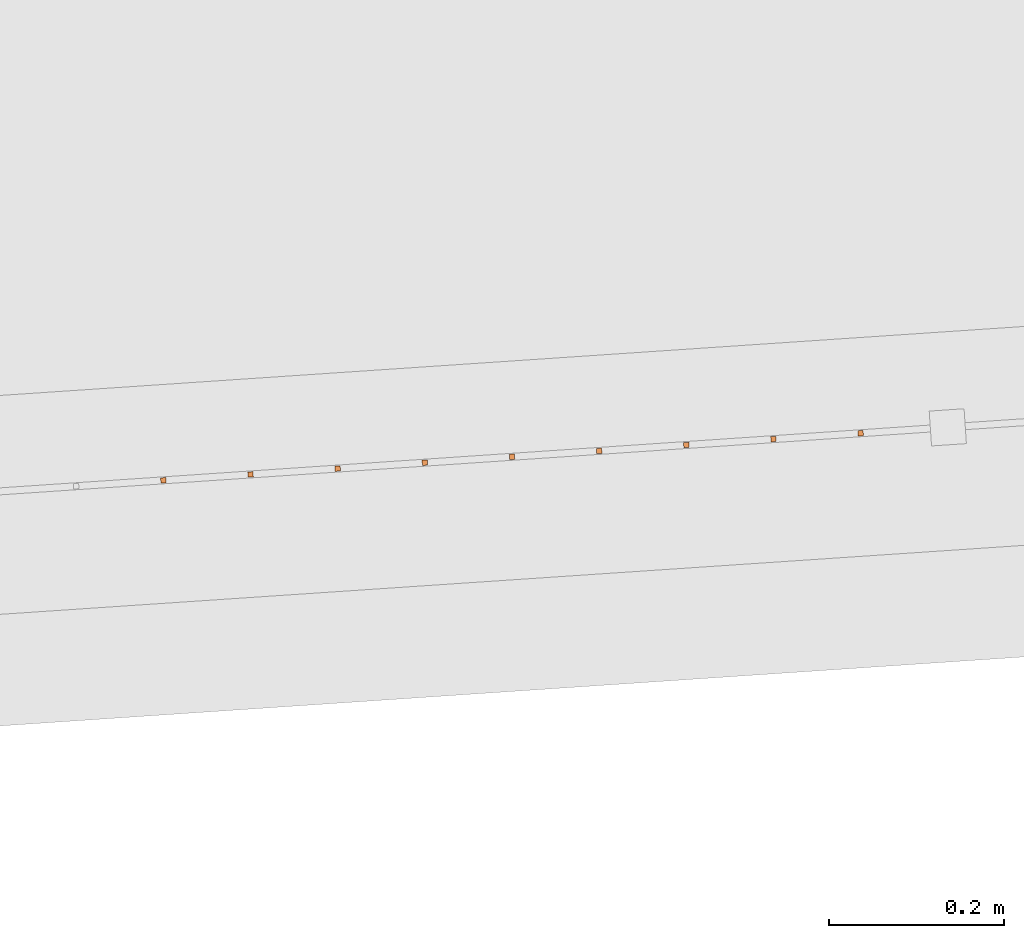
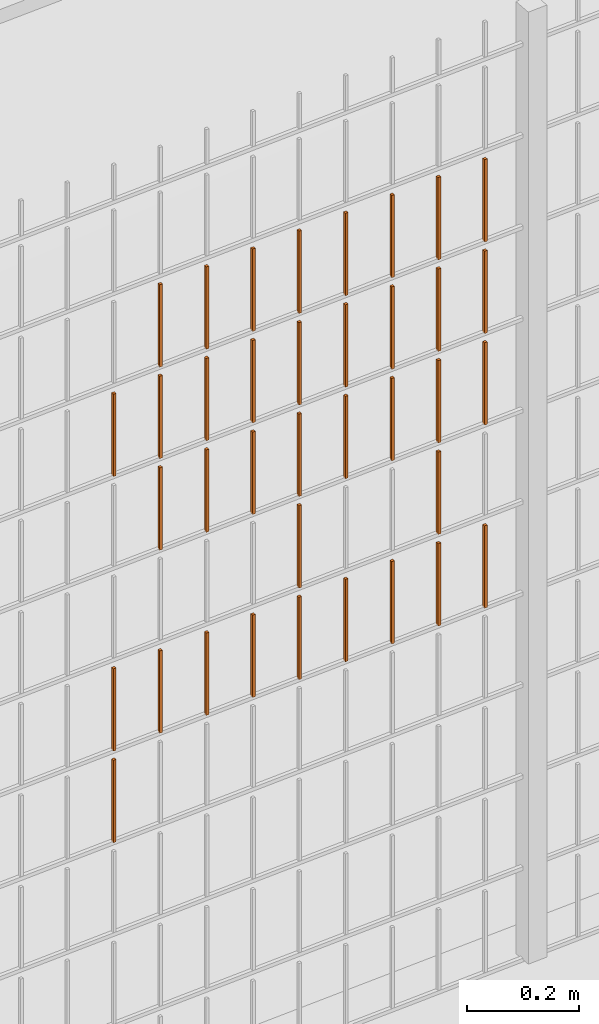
# One storey, part 263 of 1809: 37 proxies, 1 element without a shape of its own.
"""IFC2X3 building model written with IfcOpenShell, lengths in millimetres."""

from ifc_helpers import new_model, entity, si_unit, converted_unit, derived_unit, money_unit, direction, frame, origin_with_axes, place, context, subcontext, project, spatial, faceted_brep, source, transform, mapped, material, type_object, element, aggregate, save


model = new_model("IFC2X3")

# Units and contexts
model_context = context("Model", 3, precision=0.01, world=origin_with_axes(), true_north=direction((0.0, 1.0)))
body_context = subcontext(model_context, "Body", "Model", "MODEL_VIEW")
ifc_project = project(units=[si_unit("LENGTHUNIT", "METRE", prefix="MILLI"), si_unit("AREAUNIT", "SQUARE_METRE"), si_unit("VOLUMEUNIT", "CUBIC_METRE"), converted_unit("PLANEANGLEUNIT", "DEGREE", entity("IfcPlaneAngleMeasure", 0.0174532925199), si_unit("PLANEANGLEUNIT", "RADIAN"), dimensions=[0, 0, 0, 0, 0, 0, 0]), si_unit("SOLIDANGLEUNIT", "STERADIAN"), money_unit("EUR"), converted_unit("TIMEUNIT", "Year", entity("IfcTimeMeasure", 31556926.0), si_unit("TIMEUNIT", "SECOND"), dimensions=[0, 0, 1, 0, 0, 0, 0]), si_unit("MASSUNIT", "GRAM", prefix="KILO"), si_unit("THERMODYNAMICTEMPERATUREUNIT", "DEGREE_CELSIUS"), si_unit("LUMINOUSINTENSITYUNIT", "LUMEN"), si_unit("ENERGYUNIT", "JOULE", prefix="MEGA"), derived_unit("THERMALCONDUCTANCEUNIT", [(si_unit("POWERUNIT", "WATT"), 1), (si_unit("LENGTHUNIT", "METRE"), -1), (si_unit("THERMODYNAMICTEMPERATUREUNIT", "KELVIN"), -1)]), derived_unit("SPECIFICHEATCAPACITYUNIT", [(si_unit("ENERGYUNIT", "JOULE"), 1), (si_unit("MASSUNIT", "GRAM", prefix="KILO"), -1), (si_unit("THERMODYNAMICTEMPERATUREUNIT", "KELVIN"), -1)]), derived_unit("MASSDENSITYUNIT", [(si_unit("MASSUNIT", "GRAM", prefix="KILO"), 1), (si_unit("VOLUMEUNIT", "CUBIC_METRE"), -1)])], contexts=[model_context])

# Site, building, storey
site_placement = place(None, origin_with_axes())
site = spatial("IfcSite", under=ifc_project, at=site_placement, Name="Politse- ja Piirivalveameti ning Päästeameti ühishoone", CompositionType="ELEMENT")
building_placement = place(site_placement, origin_with_axes())
building = spatial("IfcBuilding", under=site, at=building_placement, Name="Politse- ja Piirivalveameti ning Päästeameti ühishoone", CompositionType="ELEMENT")
storey_placement = place(building_placement, origin_with_axes())
storey = spatial("IfcBuildingStorey", under=building, at=storey_placement, Name="Esimene korrus", CompositionType="ELEMENT", Elevation=0.0)

# Proxies
building_element_proxy_type_1 = type_object("IfcBuildingElementProxyType", Name="Railing Type", PredefinedType="NOTDEFINED")
proxy_1_placement = place(storey_placement, frame((89252.001212, -29183.4766571, 203.661247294), z_axis=(0.0, 0.0, 1.0), x_axis=(1.0, 0.0, 0.0)))
proxy_1 = element("IfcBuildingElementProxy", 1, at=proxy_1_placement, inside=storey, type_object=building_element_proxy_type_1, Name="PIIRDEAED")
ifc_material = material(Name="ET-03_Raud")
building_element_proxy_type_2 = type_object("IfcBuildingElementProxyType", Name="IfcBuildingElementProxy", PredefinedType="NOTDEFINED")
shared_shape_1 = source(origin_with_axes(), body_context, "Body", "Brep", [
    faceted_brep([(3.0, 3.0, -0.000752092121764), (-3.0, 3.0, -0.000752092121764), (-3.0, 3.0, 179.99926046), (3.0, 3.0, 179.99926046), (3.0, -3.0, 0.000752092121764), (-3.0, -3.0, 0.000752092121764), (-3.0, -3.0, 180.000764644), (3.0, -3.0, 180.000764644)], [[[0, 1, 2, 3]], [[0, 4, 5, 1]], [[1, 5, 6, 2]], [[3, 2, 6, 7]], [[4, 0, 3, 7]], [[5, 4, 7, 6]]]),
])
proxy_2_placement = place(proxy_1_placement, frame((-57894.7660487, -21208.3477212, 812.687247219), z_axis=(0.0, 0.0, 1.0), x_axis=(1.0, 0.0, 0.0)))
proxy_2 = element("IfcBuildingElementProxy", 2, at=proxy_2_placement, type_object=building_element_proxy_type_2, material=ifc_material, Name="BALUSTER - 001", context=body_context, shape_type="MappedRepresentation", body=[
    mapped(shared_shape_1, transform((0.0, 0.0, 0.0), x_axis=(-0.0673926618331, 0.997726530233, 0.0), y_axis=(-0.997726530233, -0.0673926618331, 0.0), z_axis=(0.0, 0.0, 1.0))),
])
shared_shape_2 = source(origin_with_axes(), body_context, "Body", "Brep", [
    faceted_brep([(3.0, 3.0, -0.000752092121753), (-3.0, 3.0, -0.000752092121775), (-3.0, 3.0, 179.99926046), (3.0, 3.0, 179.99926046), (3.0, -3.0, 0.000752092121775), (-3.0, -3.0, 0.000752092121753), (-3.0, -3.0, 180.000764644), (3.0, -3.0, 180.000764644)], [[[0, 1, 2, 3]], [[0, 4, 5, 1]], [[1, 5, 6, 2]], [[3, 2, 6, 7]], [[4, 0, 3, 7]], [[5, 4, 7, 6]]]),
])
proxy_3_placement = place(proxy_1_placement, frame((-57695.2207427, -21194.8691889, 812.737386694), z_axis=(0.0, 0.0, 1.0), x_axis=(1.0, 0.0, 0.0)))
proxy_3 = element("IfcBuildingElementProxy", 3, at=proxy_3_placement, type_object=building_element_proxy_type_2, material=ifc_material, Name="BALUSTER - 001", context=body_context, shape_type="MappedRepresentation", body=[
    mapped(shared_shape_2, transform((0.0, 0.0, 0.0), x_axis=(-0.0673926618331, 0.997726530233, 0.0), y_axis=(-0.997726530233, -0.0673926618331, 0.0), z_axis=(0.0, 0.0, 1.0))),
])
proxy_4_placement = place(proxy_1_placement, frame((-57695.2207427, -21194.8691889, 1212.73738669), z_axis=(0.0, 0.0, 1.0), x_axis=(1.0, 0.0, 0.0)))
proxy_4 = element("IfcBuildingElementProxy", 4, at=proxy_4_placement, type_object=building_element_proxy_type_2, material=ifc_material, Name="BALUSTER - 001", context=body_context, shape_type="MappedRepresentation", body=[
    mapped(shared_shape_2, transform((0.0, 0.0, 0.0), x_axis=(-0.0673926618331, 0.997726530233, 0.0), y_axis=(-0.997726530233, -0.0673926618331, 0.0), z_axis=(0.0, 0.0, 1.0))),
])
proxy_5_placement = place(proxy_1_placement, frame((-57794.9933957, -21201.608455, 1212.71231696), z_axis=(0.0, 0.0, 1.0), x_axis=(1.0, 0.0, 0.0)))
proxy_5 = element("IfcBuildingElementProxy", 5, at=proxy_5_placement, type_object=building_element_proxy_type_2, material=ifc_material, Name="BALUSTER - 001", context=body_context, shape_type="MappedRepresentation", body=[
    mapped(shared_shape_2, transform((0.0, 0.0, 0.0), x_axis=(-0.0673926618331, 0.997726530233, 0.0), y_axis=(-0.997726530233, -0.0673926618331, 0.0), z_axis=(0.0, 0.0, 1.0))),
])
shared_shape_3 = source(origin_with_axes(), body_context, "Body", "Brep", [
    faceted_brep([(3.0, 3.0, -0.000752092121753), (-3.0, 3.0, -0.000752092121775), (-3.0, 3.0, 179.99926046), (3.0, 3.0, 179.99926046), (3.0, -3.0, 0.000752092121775), (-3.0, -3.0, 0.000752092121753), (-3.0, -3.0, 180.000764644), (3.0, -3.0, 180.000764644)], [[[0, 1, 2, 3]], [[0, 4, 5, 1]], [[1, 5, 6, 2]], [[3, 2, 6, 7]], [[4, 0, 3, 7]], [[5, 4, 7, 6]]]),
])
proxy_6_placement = place(proxy_1_placement, frame((-57695.2207427, -21194.8691889, 1412.73738669), z_axis=(0.0, 0.0, 1.0), x_axis=(1.0, 0.0, 0.0)))
proxy_6 = element("IfcBuildingElementProxy", 6, at=proxy_6_placement, type_object=building_element_proxy_type_2, material=ifc_material, Name="BALUSTER - 001", context=body_context, shape_type="MappedRepresentation", body=[
    mapped(shared_shape_3, transform((0.0, 0.0, 0.0), x_axis=(-0.0673926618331, 0.997726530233, 0.0), y_axis=(-0.997726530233, -0.0673926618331, 0.0), z_axis=(0.0, 0.0, 1.0))),
])
proxy_7_placement = place(proxy_1_placement, frame((-57794.9933957, -21201.608455, 1412.71231696), z_axis=(0.0, 0.0, 1.0), x_axis=(1.0, 0.0, 0.0)))
proxy_7 = element("IfcBuildingElementProxy", 7, at=proxy_7_placement, type_object=building_element_proxy_type_2, material=ifc_material, Name="BALUSTER - 001", context=body_context, shape_type="MappedRepresentation", body=[
    mapped(shared_shape_3, transform((0.0, 0.0, 0.0), x_axis=(-0.0673926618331, 0.997726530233, 0.0), y_axis=(-0.997726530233, -0.0673926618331, 0.0), z_axis=(0.0, 0.0, 1.0))),
])
proxy_8_placement = place(proxy_1_placement, frame((-57695.2207427, -21194.8691889, 1612.73738669), z_axis=(0.0, 0.0, 1.0), x_axis=(1.0, 0.0, 0.0)))
proxy_8 = element("IfcBuildingElementProxy", 8, at=proxy_8_placement, type_object=building_element_proxy_type_2, material=ifc_material, Name="BALUSTER - 001", context=body_context, shape_type="MappedRepresentation", body=[
    mapped(shared_shape_3, transform((0.0, 0.0, 0.0), x_axis=(-0.0673926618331, 0.997726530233, 0.0), y_axis=(-0.997726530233, -0.0673926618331, 0.0), z_axis=(0.0, 0.0, 1.0))),
])
proxy_9_placement = place(proxy_1_placement, frame((-57794.9933957, -21201.608455, 1612.71231696), z_axis=(0.0, 0.0, 1.0), x_axis=(1.0, 0.0, 0.0)))
proxy_9 = element("IfcBuildingElementProxy", 9, at=proxy_9_placement, type_object=building_element_proxy_type_2, material=ifc_material, Name="BALUSTER - 001", context=body_context, shape_type="MappedRepresentation", body=[
    mapped(shared_shape_3, transform((0.0, 0.0, 0.0), x_axis=(-0.0673926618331, 0.997726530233, 0.0), y_axis=(-0.997726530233, -0.0673926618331, 0.0), z_axis=(0.0, 0.0, 1.0))),
])
shared_shape_4 = source(origin_with_axes(), body_context, "Body", "Brep", [
    faceted_brep([(3.0, 3.0, -0.000752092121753), (-3.0, 3.0, -0.000752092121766), (-3.00000000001, 3.00000000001, 179.99926046), (2.99999999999, 3.00000000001, 179.99926046), (3.0, -3.0, 0.000752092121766), (-3.0, -3.0, 0.000752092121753), (-3.00000000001, -2.99999999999, 180.000764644), (2.99999999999, -2.99999999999, 180.000764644)], [[[0, 1, 2, 3]], [[0, 4, 5, 1]], [[1, 5, 6, 2]], [[3, 2, 6, 7]], [[4, 0, 3, 7]], [[5, 4, 7, 6]]]),
])
proxy_10_placement = place(proxy_1_placement, frame((-57395.9027836, -21174.6513903, 1012.81259591), z_axis=(0.0, 0.0, 1.0), x_axis=(1.0, 0.0, 0.0)))
proxy_10 = element("IfcBuildingElementProxy", 10, at=proxy_10_placement, type_object=building_element_proxy_type_2, material=ifc_material, Name="BALUSTER - 001", context=body_context, shape_type="MappedRepresentation", body=[
    mapped(shared_shape_4, transform((0.0, 0.0, 0.0), x_axis=(-0.0673926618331, 0.997726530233, 0.0), y_axis=(-0.997726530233, -0.0673926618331, 0.0), z_axis=(0.0, 0.0, 1.0))),
])
shared_shape_5 = source(origin_with_axes(), body_context, "Body", "Brep", [
    faceted_brep([(3.0, 3.0, -0.000752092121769), (-3.0, 3.0, -0.000752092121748), (-3.0, 3.0, 179.99926046), (3.0, 3.0, 179.99926046), (3.0, -3.0, 0.000752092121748), (-3.0, -3.0, 0.000752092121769), (-3.0, -3.0, 180.000764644), (3.0, -3.0, 180.000764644)], [[[0, 1, 2, 3]], [[0, 4, 5, 1]], [[1, 5, 6, 2]], [[3, 2, 6, 7]], [[4, 0, 3, 7]], [[5, 4, 7, 6]]]),
])
proxy_11_placement = place(proxy_1_placement, frame((-57994.5387017, -21215.0869874, 1212.66217748), z_axis=(0.0, 0.0, 1.0), x_axis=(1.0, 0.0, 0.0)))
proxy_11 = element("IfcBuildingElementProxy", 11, at=proxy_11_placement, type_object=building_element_proxy_type_2, material=ifc_material, Name="BALUSTER - 001", context=body_context, shape_type="MappedRepresentation", body=[
    mapped(shared_shape_5, transform((0.0, 0.0, 0.0), x_axis=(-0.0673926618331, 0.997726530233, 0.0), y_axis=(-0.997726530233, -0.0673926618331, 0.0), z_axis=(0.0, 0.0, 1.0))),
])
shared_shape_6 = source(origin_with_axes(), body_context, "Body", "Brep", [
    faceted_brep([(3.0, 3.0, -0.000752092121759), (-3.0, 3.0, -0.000752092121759), (-3.0, 3.0, 179.99926046), (3.0, 3.0, 179.99926046), (3.0, -3.0, 0.000752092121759), (-3.0, -3.0, 0.000752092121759), (-3.0, -3.0, 180.000764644), (3.0, -3.0, 180.000764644)], [[[0, 1, 2, 3]], [[0, 4, 5, 1]], [[1, 5, 6, 2]], [[3, 2, 6, 7]], [[4, 0, 3, 7]], [[5, 4, 7, 6]]]),
])
proxy_12_placement = place(proxy_1_placement, frame((-58094.3113548, -21221.8262536, 612.637107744), z_axis=(0.0, 0.0, 1.0), x_axis=(1.0, 0.0, 0.0)))
proxy_12 = element("IfcBuildingElementProxy", 12, at=proxy_12_placement, type_object=building_element_proxy_type_2, material=ifc_material, Name="BALUSTER - 001", context=body_context, shape_type="MappedRepresentation", body=[
    mapped(shared_shape_6, transform((0.0, 0.0, 0.0), x_axis=(-0.0673926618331, 0.997726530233, 0.0), y_axis=(-0.997726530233, -0.0673926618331, 0.0), z_axis=(0.0, 0.0, 1.0))),
])
proxy_13_placement = place(proxy_1_placement, frame((-58094.3113548, -21221.8262536, 812.637107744), z_axis=(0.0, 0.0, 1.0), x_axis=(1.0, 0.0, 0.0)))
proxy_13 = element("IfcBuildingElementProxy", 13, at=proxy_13_placement, type_object=building_element_proxy_type_2, material=ifc_material, Name="BALUSTER - 001", context=body_context, shape_type="MappedRepresentation", body=[
    mapped(shared_shape_6, transform((0.0, 0.0, 0.0), x_axis=(-0.0673926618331, 0.997726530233, 0.0), y_axis=(-0.997726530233, -0.0673926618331, 0.0), z_axis=(0.0, 0.0, 1.0))),
])
shared_shape_7 = source(origin_with_axes(), body_context, "Body", "Brep", [
    faceted_brep([(3.0, 3.0, -0.000752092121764), (-3.0, 3.0, -0.000752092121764), (-3.0, 3.0, 179.99926046), (3.0, 3.0, 179.99926046), (3.0, -3.0, 0.000752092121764), (-3.0, -3.0, 0.000752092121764), (-3.0, -3.0, 180.000764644), (3.0, -3.0, 180.000764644)], [[[0, 1, 2, 3]], [[0, 4, 5, 1]], [[1, 5, 6, 2]], [[3, 2, 6, 7]], [[4, 0, 3, 7]], [[5, 4, 7, 6]]]),
])
proxy_14_placement = place(proxy_1_placement, frame((-57395.9027836, -21174.6513903, 812.812595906), z_axis=(0.0, 0.0, 1.0), x_axis=(1.0, 0.0, 0.0)))
proxy_14 = element("IfcBuildingElementProxy", 14, at=proxy_14_placement, type_object=building_element_proxy_type_2, material=ifc_material, Name="BALUSTER - 001", context=body_context, shape_type="MappedRepresentation", body=[
    mapped(shared_shape_7, transform((0.0, 0.0, 0.0), x_axis=(-0.0673926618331, 0.997726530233, 0.0), y_axis=(-0.997726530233, -0.0673926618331, 0.0), z_axis=(0.0, 0.0, 1.0))),
])
proxy_15_placement = place(proxy_1_placement, frame((-57794.9933957, -21201.608455, 812.712316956), z_axis=(0.0, 0.0, 1.0), x_axis=(1.0, 0.0, 0.0)))
proxy_15 = element("IfcBuildingElementProxy", 15, at=proxy_15_placement, type_object=building_element_proxy_type_2, material=ifc_material, Name="BALUSTER - 001", context=body_context, shape_type="MappedRepresentation", body=[
    mapped(shared_shape_7, transform((0.0, 0.0, 0.0), x_axis=(-0.0673926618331, 0.997726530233, 0.0), y_axis=(-0.997726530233, -0.0673926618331, 0.0), z_axis=(0.0, 0.0, 1.0))),
])
proxy_16_placement = place(proxy_1_placement, frame((-57395.9027836, -21174.6513903, 1212.81259591), z_axis=(0.0, 0.0, 1.0), x_axis=(1.0, 0.0, 0.0)))
proxy_16 = element("IfcBuildingElementProxy", 16, at=proxy_16_placement, type_object=building_element_proxy_type_2, material=ifc_material, Name="BALUSTER - 001", context=body_context, shape_type="MappedRepresentation", body=[
    mapped(shared_shape_7, transform((0.0, 0.0, 0.0), x_axis=(-0.0673926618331, 0.997726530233, 0.0), y_axis=(-0.997726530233, -0.0673926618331, 0.0), z_axis=(0.0, 0.0, 1.0))),
])
shared_shape_8 = source(origin_with_axes(), body_context, "Body", "Brep", [
    faceted_brep([(3.0, 3.0, -0.000752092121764), (-3.0, 3.0, -0.000752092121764), (-3.0, 3.0, 179.99926046), (3.0, 3.0, 179.99926046), (3.0, -3.0, 0.000752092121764), (-3.0, -3.0, 0.000752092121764), (-3.0, -3.0, 180.000764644), (3.0, -3.0, 180.000764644)], [[[0, 1, 2, 3]], [[0, 4, 5, 1]], [[1, 5, 6, 2]], [[3, 2, 6, 7]], [[4, 0, 3, 7]], [[5, 4, 7, 6]]]),
])
proxy_17_placement = place(proxy_1_placement, frame((-57296.1301306, -21167.9121241, 812.837665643), z_axis=(0.0, 0.0, 1.0), x_axis=(1.0, 0.0, 0.0)))
proxy_17 = element("IfcBuildingElementProxy", 17, at=proxy_17_placement, type_object=building_element_proxy_type_2, material=ifc_material, Name="BALUSTER - 001", context=body_context, shape_type="MappedRepresentation", body=[
    mapped(shared_shape_8, transform((0.0, 0.0, 0.0), x_axis=(-0.0673926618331, 0.997726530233, 0.0), y_axis=(-0.997726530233, -0.0673926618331, 0.0), z_axis=(0.0, 0.0, 1.0))),
])
shared_shape_9 = source(origin_with_axes(), body_context, "Body", "Brep", [
    faceted_brep([(3.0, 3.0, -0.000752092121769), (-3.0, 3.0, -0.000752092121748), (-3.0, 3.0, 179.99926046), (3.0, 3.0, 179.99926046), (3.0, -3.0, 0.000752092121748), (-3.0, -3.0, 0.000752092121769), (-3.0, -3.0, 180.000764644), (3.0, -3.0, 180.000764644)], [[[0, 1, 2, 3]], [[0, 4, 5, 1]], [[1, 5, 6, 2]], [[3, 2, 6, 7]], [[4, 0, 3, 7]], [[5, 4, 7, 6]]]),
])
proxy_18_placement = place(proxy_1_placement, frame((-57495.6754366, -21181.3906565, 812.787526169), z_axis=(0.0, 0.0, 1.0), x_axis=(1.0, 0.0, 0.0)))
proxy_18 = element("IfcBuildingElementProxy", 18, at=proxy_18_placement, type_object=building_element_proxy_type_2, material=ifc_material, Name="BALUSTER - 001", context=body_context, shape_type="MappedRepresentation", body=[
    mapped(shared_shape_9, transform((0.0, 0.0, 0.0), x_axis=(-0.0673926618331, 0.997726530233, 0.0), y_axis=(-0.997726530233, -0.0673926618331, 0.0), z_axis=(0.0, 0.0, 1.0))),
])
shared_shape_10 = source(origin_with_axes(), body_context, "Body", "Brep", [
    faceted_brep([(3.0, 3.0, -0.000752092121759), (-3.0, 3.0, -0.000752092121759), (-3.0, 3.0, 179.99926046), (3.0, 3.0, 179.99926046), (3.0, -3.0, 0.000752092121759), (-3.0, -3.0, 0.000752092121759), (-3.0, -3.0, 180.000764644), (3.0, -3.0, 180.000764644)], [[[0, 1, 2, 3]], [[0, 4, 5, 1]], [[1, 5, 6, 2]], [[3, 2, 6, 7]], [[4, 0, 3, 7]], [[5, 4, 7, 6]]]),
])
proxy_19_placement = place(proxy_1_placement, frame((-57595.4480896, -21188.1299227, 812.762456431), z_axis=(0.0, 0.0, 1.0), x_axis=(1.0, 0.0, 0.0)))
proxy_19 = element("IfcBuildingElementProxy", 19, at=proxy_19_placement, type_object=building_element_proxy_type_2, material=ifc_material, Name="BALUSTER - 001", context=body_context, shape_type="MappedRepresentation", body=[
    mapped(shared_shape_10, transform((0.0, 0.0, 0.0), x_axis=(-0.0673926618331, 0.997726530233, 0.0), y_axis=(-0.997726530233, -0.0673926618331, 0.0), z_axis=(0.0, 0.0, 1.0))),
])
shared_shape_11 = source(origin_with_axes(), body_context, "Body", "Brep", [
    faceted_brep([(3.0, 3.0, -0.000752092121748), (-3.0, 3.0, -0.00075209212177), (-3.0, 3.0, 179.99926046), (3.0, 3.0, 179.99926046), (3.0, -3.0, 0.00075209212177), (-3.0, -3.0, 0.000752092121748), (-3.0, -3.0, 180.000764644), (3.0, -3.0, 180.000764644)], [[[0, 1, 2, 3]], [[0, 4, 5, 1]], [[1, 5, 6, 2]], [[3, 2, 6, 7]], [[4, 0, 3, 7]], [[5, 4, 7, 6]]]),
])
proxy_20_placement = place(proxy_1_placement, frame((-57994.5387017, -21215.0869874, 812.662177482), z_axis=(0.0, 0.0, 1.0), x_axis=(1.0, 0.0, 0.0)))
proxy_20 = element("IfcBuildingElementProxy", 20, at=proxy_20_placement, type_object=building_element_proxy_type_2, material=ifc_material, Name="BALUSTER - 001", context=body_context, shape_type="MappedRepresentation", body=[
    mapped(shared_shape_11, transform((0.0, 0.0, 0.0), x_axis=(-0.0673926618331, 0.997726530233, 0.0), y_axis=(-0.997726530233, -0.0673926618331, 0.0), z_axis=(0.0, 0.0, 1.0))),
])
shared_shape_12 = source(origin_with_axes(), body_context, "Body", "Brep", [
    faceted_brep([(3.0, 3.0, -0.000752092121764), (-3.0, 3.0, -0.000752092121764), (-3.0, 3.0, 179.99926046), (3.0, 3.0, 179.99926046), (3.0, -3.0, 0.000752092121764), (-3.0, -3.0, 0.000752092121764), (-3.0, -3.0, 180.000764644), (3.0, -3.0, 180.000764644)], [[[0, 1, 2, 3]], [[0, 4, 5, 1]], [[1, 5, 6, 2]], [[3, 2, 6, 7]], [[4, 0, 3, 7]], [[5, 4, 7, 6]]]),
])
proxy_21_placement = place(proxy_1_placement, frame((-57296.1301306, -21167.9121241, 1212.83766564), z_axis=(0.0, 0.0, 1.0), x_axis=(1.0, 0.0, 0.0)))
proxy_21 = element("IfcBuildingElementProxy", 21, at=proxy_21_placement, type_object=building_element_proxy_type_2, material=ifc_material, Name="BALUSTER - 001", context=body_context, shape_type="MappedRepresentation", body=[
    mapped(shared_shape_12, transform((0.0, 0.0, 0.0), x_axis=(-0.0673926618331, 0.997726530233, 0.0), y_axis=(-0.997726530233, -0.0673926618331, 0.0), z_axis=(0.0, 0.0, 1.0))),
])
shared_shape_13 = source(origin_with_axes(), body_context, "Body", "Brep", [
    faceted_brep([(3.0, 3.0, -0.000752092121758), (-3.0, 3.0, -0.000752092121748), (-3.00000000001, 2.99999999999, 179.99926046), (2.99999999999, 2.99999999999, 179.99926046), (3.0, -3.0, 0.000752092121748), (-3.0, -3.0, 0.000752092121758), (-3.00000000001, -3.00000000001, 180.000764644), (2.99999999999, -3.00000000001, 180.000764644)], [[[0, 1, 2, 3]], [[0, 4, 5, 1]], [[1, 5, 6, 2]], [[3, 2, 6, 7]], [[4, 0, 3, 7]], [[5, 4, 7, 6]]]),
])
proxy_22_placement = place(proxy_1_placement, frame((-57695.2207427, -21194.8691889, 1012.73738669), z_axis=(0.0, 0.0, 1.0), x_axis=(1.0, 0.0, 0.0)))
proxy_22 = element("IfcBuildingElementProxy", 22, at=proxy_22_placement, type_object=building_element_proxy_type_2, material=ifc_material, Name="BALUSTER - 001", context=body_context, shape_type="MappedRepresentation", body=[
    mapped(shared_shape_13, transform((0.0, 0.0, 0.0), x_axis=(-0.0673926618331, 0.997726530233, 0.0), y_axis=(-0.997726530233, -0.0673926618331, 0.0), z_axis=(0.0, 0.0, 1.0))),
])
shared_shape_14 = source(origin_with_axes(), body_context, "Body", "Brep", [
    faceted_brep([(3.0, 3.0, -0.000752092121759), (-3.0, 3.0, -0.000752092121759), (-3.0, 3.0, 179.99926046), (3.0, 3.0, 179.99926046), (3.0, -3.0, 0.000752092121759), (-3.0, -3.0, 0.000752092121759), (-3.0, -3.0, 180.000764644), (3.0, -3.0, 180.000764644)], [[[0, 1, 2, 3]], [[0, 4, 5, 1]], [[1, 5, 6, 2]], [[3, 2, 6, 7]], [[4, 0, 3, 7]], [[5, 4, 7, 6]]]),
])
proxy_23_placement = place(proxy_1_placement, frame((-57495.6754366, -21181.3906565, 1212.78752617), z_axis=(0.0, 0.0, 1.0), x_axis=(1.0, 0.0, 0.0)))
proxy_23 = element("IfcBuildingElementProxy", 23, at=proxy_23_placement, type_object=building_element_proxy_type_2, material=ifc_material, Name="BALUSTER - 001", context=body_context, shape_type="MappedRepresentation", body=[
    mapped(shared_shape_14, transform((0.0, 0.0, 0.0), x_axis=(-0.0673926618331, 0.997726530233, 0.0), y_axis=(-0.997726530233, -0.0673926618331, 0.0), z_axis=(0.0, 0.0, 1.0))),
])
shared_shape_15 = source(origin_with_axes(), body_context, "Body", "Brep", [
    faceted_brep([(3.0, 3.0, -0.000752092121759), (-3.0, 3.0, -0.000752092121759), (-3.0, 3.0, 179.99926046), (3.0, 3.0, 179.99926046), (3.0, -3.0, 0.000752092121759), (-3.0, -3.0, 0.000752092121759), (-3.0, -3.0, 180.000764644), (3.0, -3.0, 180.000764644)], [[[0, 1, 2, 3]], [[0, 4, 5, 1]], [[1, 5, 6, 2]], [[3, 2, 6, 7]], [[4, 0, 3, 7]], [[5, 4, 7, 6]]]),
])
proxy_24_placement = place(proxy_1_placement, frame((-57595.4480896, -21188.1299227, 1212.76245643), z_axis=(0.0, 0.0, 1.0), x_axis=(1.0, 0.0, 0.0)))
proxy_24 = element("IfcBuildingElementProxy", 24, at=proxy_24_placement, type_object=building_element_proxy_type_2, material=ifc_material, Name="BALUSTER - 001", context=body_context, shape_type="MappedRepresentation", body=[
    mapped(shared_shape_15, transform((0.0, 0.0, 0.0), x_axis=(-0.0673926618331, 0.997726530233, 0.0), y_axis=(-0.997726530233, -0.0673926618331, 0.0), z_axis=(0.0, 0.0, 1.0))),
])
shared_shape_16 = source(origin_with_axes(), body_context, "Body", "Brep", [
    faceted_brep([(3.0, 3.0, -0.000752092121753), (-3.0, 3.0, -0.000752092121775), (-3.0, 3.0, 179.99926046), (3.0, 3.0, 179.99926046), (3.0, -3.0, 0.000752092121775), (-3.0, -3.0, 0.000752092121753), (-3.0, -3.0, 180.000764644), (3.0, -3.0, 180.000764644)], [[[0, 1, 2, 3]], [[0, 4, 5, 1]], [[1, 5, 6, 2]], [[3, 2, 6, 7]], [[4, 0, 3, 7]], [[5, 4, 7, 6]]]),
])
proxy_25_placement = place(proxy_1_placement, frame((-57894.7660487, -21208.3477212, 1212.68724722), z_axis=(0.0, 0.0, 1.0), x_axis=(1.0, 0.0, 0.0)))
proxy_25 = element("IfcBuildingElementProxy", 25, at=proxy_25_placement, type_object=building_element_proxy_type_2, material=ifc_material, Name="BALUSTER - 001", context=body_context, shape_type="MappedRepresentation", body=[
    mapped(shared_shape_16, transform((0.0, 0.0, 0.0), x_axis=(-0.0673926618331, 0.997726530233, 0.0), y_axis=(-0.997726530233, -0.0673926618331, 0.0), z_axis=(0.0, 0.0, 1.0))),
])
shared_shape_17 = source(origin_with_axes(), body_context, "Body", "Brep", [
    faceted_brep([(3.0, 3.0, -0.000752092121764), (-3.0, 3.0, -0.000752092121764), (-3.0, 3.0, 179.99926046), (3.0, 3.0, 179.99926046), (3.0, -3.0, 0.000752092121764), (-3.0, -3.0, 0.000752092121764), (-3.0, -3.0, 180.000764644), (3.0, -3.0, 180.000764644)], [[[0, 1, 2, 3]], [[0, 4, 5, 1]], [[1, 5, 6, 2]], [[3, 2, 6, 7]], [[4, 0, 3, 7]], [[5, 4, 7, 6]]]),
])
proxy_26_placement = place(proxy_1_placement, frame((-57296.1301306, -21167.9121241, 1412.83766564), z_axis=(0.0, 0.0, 1.0), x_axis=(1.0, 0.0, 0.0)))
proxy_26 = element("IfcBuildingElementProxy", 26, at=proxy_26_placement, type_object=building_element_proxy_type_2, material=ifc_material, Name="BALUSTER - 001", context=body_context, shape_type="MappedRepresentation", body=[
    mapped(shared_shape_17, transform((0.0, 0.0, 0.0), x_axis=(-0.0673926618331, 0.997726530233, 0.0), y_axis=(-0.997726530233, -0.0673926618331, 0.0), z_axis=(0.0, 0.0, 1.0))),
])
proxy_27_placement = place(proxy_1_placement, frame((-57296.1301306, -21167.9121241, 1612.83766564), z_axis=(0.0, 0.0, 1.0), x_axis=(1.0, 0.0, 0.0)))
proxy_27 = element("IfcBuildingElementProxy", 27, at=proxy_27_placement, type_object=building_element_proxy_type_2, material=ifc_material, Name="BALUSTER - 001", context=body_context, shape_type="MappedRepresentation", body=[
    mapped(shared_shape_17, transform((0.0, 0.0, 0.0), x_axis=(-0.0673926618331, 0.997726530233, 0.0), y_axis=(-0.997726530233, -0.0673926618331, 0.0), z_axis=(0.0, 0.0, 1.0))),
])
shared_shape_18 = source(origin_with_axes(), body_context, "Body", "Brep", [
    faceted_brep([(3.0, 3.0, -0.000752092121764), (-3.0, 3.0, -0.000752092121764), (-3.0, 3.0, 179.99926046), (3.0, 3.0, 179.99926046), (3.0, -3.0, 0.000752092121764), (-3.0, -3.0, 0.000752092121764), (-3.0, -3.0, 180.000764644), (3.0, -3.0, 180.000764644)], [[[0, 1, 2, 3]], [[0, 4, 5, 1]], [[1, 5, 6, 2]], [[3, 2, 6, 7]], [[4, 0, 3, 7]], [[5, 4, 7, 6]]]),
])
proxy_28_placement = place(proxy_1_placement, frame((-57395.9027836, -21174.6513903, 1412.81259591), z_axis=(0.0, 0.0, 1.0), x_axis=(1.0, 0.0, 0.0)))
proxy_28 = element("IfcBuildingElementProxy", 28, at=proxy_28_placement, type_object=building_element_proxy_type_2, material=ifc_material, Name="BALUSTER - 001", context=body_context, shape_type="MappedRepresentation", body=[
    mapped(shared_shape_18, transform((0.0, 0.0, 0.0), x_axis=(-0.0673926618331, 0.997726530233, 0.0), y_axis=(-0.997726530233, -0.0673926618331, 0.0), z_axis=(0.0, 0.0, 1.0))),
])
proxy_29_placement = place(proxy_1_placement, frame((-57395.9027836, -21174.6513903, 1612.81259591), z_axis=(0.0, 0.0, 1.0), x_axis=(1.0, 0.0, 0.0)))
proxy_29 = element("IfcBuildingElementProxy", 29, at=proxy_29_placement, type_object=building_element_proxy_type_2, material=ifc_material, Name="BALUSTER - 001", context=body_context, shape_type="MappedRepresentation", body=[
    mapped(shared_shape_18, transform((0.0, 0.0, 0.0), x_axis=(-0.0673926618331, 0.997726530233, 0.0), y_axis=(-0.997726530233, -0.0673926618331, 0.0), z_axis=(0.0, 0.0, 1.0))),
])
shared_shape_19 = source(origin_with_axes(), body_context, "Body", "Brep", [
    faceted_brep([(3.0, 3.0, -0.000752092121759), (-3.0, 3.0, -0.000752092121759), (-3.0, 3.0, 179.99926046), (3.0, 3.0, 179.99926046), (3.0, -3.0, 0.000752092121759), (-3.0, -3.0, 0.000752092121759), (-3.0, -3.0, 180.000764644), (3.0, -3.0, 180.000764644)], [[[0, 1, 2, 3]], [[0, 4, 5, 1]], [[1, 5, 6, 2]], [[3, 2, 6, 7]], [[4, 0, 3, 7]], [[5, 4, 7, 6]]]),
])
proxy_30_placement = place(proxy_1_placement, frame((-57495.6754366, -21181.3906565, 1412.78752617), z_axis=(0.0, 0.0, 1.0), x_axis=(1.0, 0.0, 0.0)))
proxy_30 = element("IfcBuildingElementProxy", 30, at=proxy_30_placement, type_object=building_element_proxy_type_2, material=ifc_material, Name="BALUSTER - 001", context=body_context, shape_type="MappedRepresentation", body=[
    mapped(shared_shape_19, transform((0.0, 0.0, 0.0), x_axis=(-0.0673926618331, 0.997726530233, 0.0), y_axis=(-0.997726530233, -0.0673926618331, 0.0), z_axis=(0.0, 0.0, 1.0))),
])
proxy_31_placement = place(proxy_1_placement, frame((-57495.6754366, -21181.3906565, 1612.78752617), z_axis=(0.0, 0.0, 1.0), x_axis=(1.0, 0.0, 0.0)))
proxy_31 = element("IfcBuildingElementProxy", 31, at=proxy_31_placement, type_object=building_element_proxy_type_2, material=ifc_material, Name="BALUSTER - 001", context=body_context, shape_type="MappedRepresentation", body=[
    mapped(shared_shape_19, transform((0.0, 0.0, 0.0), x_axis=(-0.0673926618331, 0.997726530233, 0.0), y_axis=(-0.997726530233, -0.0673926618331, 0.0), z_axis=(0.0, 0.0, 1.0))),
])
shared_shape_20 = source(origin_with_axes(), body_context, "Body", "Brep", [
    faceted_brep([(3.0, 3.0, -0.000752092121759), (-3.0, 3.0, -0.000752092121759), (-3.0, 3.0, 179.99926046), (3.0, 3.0, 179.99926046), (3.0, -3.0, 0.000752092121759), (-3.0, -3.0, 0.000752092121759), (-3.0, -3.0, 180.000764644), (3.0, -3.0, 180.000764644)], [[[0, 1, 2, 3]], [[0, 4, 5, 1]], [[1, 5, 6, 2]], [[3, 2, 6, 7]], [[4, 0, 3, 7]], [[5, 4, 7, 6]]]),
])
proxy_32_placement = place(proxy_1_placement, frame((-57595.4480896, -21188.1299227, 1412.76245643), z_axis=(0.0, 0.0, 1.0), x_axis=(1.0, 0.0, 0.0)))
proxy_32 = element("IfcBuildingElementProxy", 32, at=proxy_32_placement, type_object=building_element_proxy_type_2, material=ifc_material, Name="BALUSTER - 001", context=body_context, shape_type="MappedRepresentation", body=[
    mapped(shared_shape_20, transform((0.0, 0.0, 0.0), x_axis=(-0.0673926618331, 0.997726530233, 0.0), y_axis=(-0.997726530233, -0.0673926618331, 0.0), z_axis=(0.0, 0.0, 1.0))),
])
proxy_33_placement = place(proxy_1_placement, frame((-57595.4480896, -21188.1299227, 1612.76245643), z_axis=(0.0, 0.0, 1.0), x_axis=(1.0, 0.0, 0.0)))
proxy_33 = element("IfcBuildingElementProxy", 33, at=proxy_33_placement, type_object=building_element_proxy_type_2, material=ifc_material, Name="BALUSTER - 001", context=body_context, shape_type="MappedRepresentation", body=[
    mapped(shared_shape_20, transform((0.0, 0.0, 0.0), x_axis=(-0.0673926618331, 0.997726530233, 0.0), y_axis=(-0.997726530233, -0.0673926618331, 0.0), z_axis=(0.0, 0.0, 1.0))),
])
shared_shape_21 = source(origin_with_axes(), body_context, "Body", "Brep", [
    faceted_brep([(3.0, 3.0, -0.000752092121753), (-3.0, 3.0, -0.000752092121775), (-3.0, 3.0, 179.99926046), (3.0, 3.0, 179.99926046), (3.0, -3.0, 0.000752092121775), (-3.0, -3.0, 0.000752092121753), (-3.0, -3.0, 180.000764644), (3.0, -3.0, 180.000764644)], [[[0, 1, 2, 3]], [[0, 4, 5, 1]], [[1, 5, 6, 2]], [[3, 2, 6, 7]], [[4, 0, 3, 7]], [[5, 4, 7, 6]]]),
])
proxy_34_placement = place(proxy_1_placement, frame((-57894.7660487, -21208.3477212, 1412.68724722), z_axis=(0.0, 0.0, 1.0), x_axis=(1.0, 0.0, 0.0)))
proxy_34 = element("IfcBuildingElementProxy", 34, at=proxy_34_placement, type_object=building_element_proxy_type_2, material=ifc_material, Name="BALUSTER - 001", context=body_context, shape_type="MappedRepresentation", body=[
    mapped(shared_shape_21, transform((0.0, 0.0, 0.0), x_axis=(-0.0673926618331, 0.997726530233, 0.0), y_axis=(-0.997726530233, -0.0673926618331, 0.0), z_axis=(0.0, 0.0, 1.0))),
])
proxy_35_placement = place(proxy_1_placement, frame((-57894.7660487, -21208.3477212, 1612.68724722), z_axis=(0.0, 0.0, 1.0), x_axis=(1.0, 0.0, 0.0)))
proxy_35 = element("IfcBuildingElementProxy", 35, at=proxy_35_placement, type_object=building_element_proxy_type_2, material=ifc_material, Name="BALUSTER - 001", context=body_context, shape_type="MappedRepresentation", body=[
    mapped(shared_shape_21, transform((0.0, 0.0, 0.0), x_axis=(-0.0673926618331, 0.997726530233, 0.0), y_axis=(-0.997726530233, -0.0673926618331, 0.0), z_axis=(0.0, 0.0, 1.0))),
])
shared_shape_22 = source(origin_with_axes(), body_context, "Body", "Brep", [
    faceted_brep([(3.0, 3.0, -0.000752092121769), (-3.0, 3.0, -0.000752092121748), (-3.0, 3.0, 179.99926046), (3.0, 3.0, 179.99926046), (3.0, -3.0, 0.000752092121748), (-3.0, -3.0, 0.000752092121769), (-3.0, -3.0, 180.000764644), (3.0, -3.0, 180.000764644)], [[[0, 1, 2, 3]], [[0, 4, 5, 1]], [[1, 5, 6, 2]], [[3, 2, 6, 7]], [[4, 0, 3, 7]], [[5, 4, 7, 6]]]),
])
proxy_36_placement = place(proxy_1_placement, frame((-57994.5387017, -21215.0869874, 1412.66217748), z_axis=(0.0, 0.0, 1.0), x_axis=(1.0, 0.0, 0.0)))
proxy_36 = element("IfcBuildingElementProxy", 36, at=proxy_36_placement, type_object=building_element_proxy_type_2, material=ifc_material, Name="BALUSTER - 001", context=body_context, shape_type="MappedRepresentation", body=[
    mapped(shared_shape_22, transform((0.0, 0.0, 0.0), x_axis=(-0.0673926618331, 0.997726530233, 0.0), y_axis=(-0.997726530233, -0.0673926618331, 0.0), z_axis=(0.0, 0.0, 1.0))),
])
proxy_37_placement = place(proxy_1_placement, frame((-57994.5387017, -21215.0869874, 1612.66217748), z_axis=(0.0, 0.0, 1.0), x_axis=(1.0, 0.0, 0.0)))
proxy_37 = element("IfcBuildingElementProxy", 37, at=proxy_37_placement, type_object=building_element_proxy_type_2, material=ifc_material, Name="BALUSTER - 001", context=body_context, shape_type="MappedRepresentation", body=[
    mapped(shared_shape_22, transform((0.0, 0.0, 0.0), x_axis=(-0.0673926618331, 0.997726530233, 0.0), y_axis=(-0.997726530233, -0.0673926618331, 0.0), z_axis=(0.0, 0.0, 1.0))),
])
shared_shape_23 = source(origin_with_axes(), body_context, "Body", "Brep", [
    faceted_brep([(3.0, 3.0, -0.000752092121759), (-3.0, 3.0, -0.000752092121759), (-3.0, 3.0, 179.99926046), (3.0, 3.0, 179.99926046), (3.0, -3.0, 0.000752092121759), (-3.0, -3.0, 0.000752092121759), (-3.0, -3.0, 180.000764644), (3.0, -3.0, 180.000764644)], [[[0, 1, 2, 3]], [[0, 4, 5, 1]], [[1, 5, 6, 2]], [[3, 2, 6, 7]], [[4, 0, 3, 7]], [[5, 4, 7, 6]]]),
])
proxy_38_placement = place(proxy_1_placement, frame((-58094.3113548, -21221.8262536, 1412.63710774), z_axis=(0.0, 0.0, 1.0), x_axis=(1.0, 0.0, 0.0)))
proxy_38 = element("IfcBuildingElementProxy", 38, at=proxy_38_placement, type_object=building_element_proxy_type_2, material=ifc_material, Name="BALUSTER - 001", context=body_context, shape_type="MappedRepresentation", body=[
    mapped(shared_shape_23, transform((0.0, 0.0, 0.0), x_axis=(-0.0673926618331, 0.997726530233, 0.0), y_axis=(-0.997726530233, -0.0673926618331, 0.0), z_axis=(0.0, 0.0, 1.0))),
])
aggregate(proxy_1, [proxy_12, proxy_17, proxy_14, proxy_18, proxy_19, proxy_3, proxy_15, proxy_2, proxy_20, proxy_13, proxy_10, proxy_22, proxy_21, proxy_16, proxy_23, proxy_24, proxy_4, proxy_5, proxy_25, proxy_11, proxy_26, proxy_28, proxy_30, proxy_32, proxy_6, proxy_7, proxy_34, proxy_36, proxy_38, proxy_27, proxy_29, proxy_31, proxy_33, proxy_8, proxy_9, proxy_35, proxy_37])

save(model, "model.ifc")
